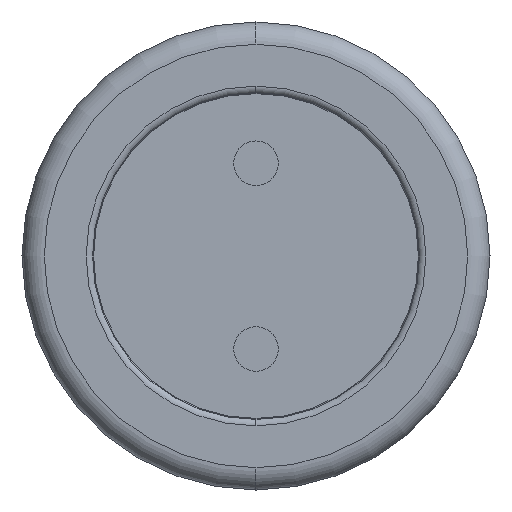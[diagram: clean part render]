
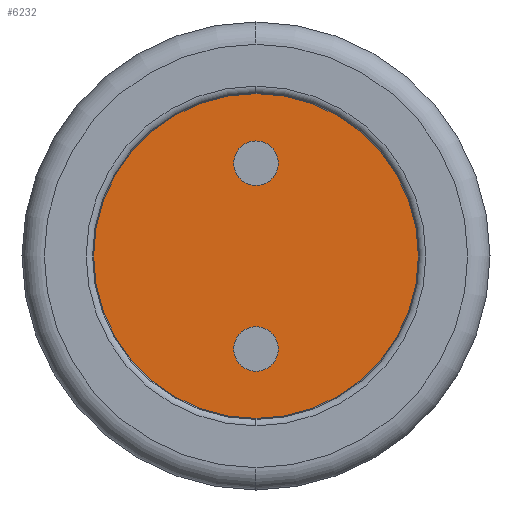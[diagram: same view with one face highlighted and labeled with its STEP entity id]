
A CAD part, left-side view. The second image highlights one B-rep face of the part: STEP entity #6232.
In plain terms, the highlighted planar face has unit normal (-1, 0, 0).
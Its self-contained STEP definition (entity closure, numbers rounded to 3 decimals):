
#40=CARTESIAN_POINT('',(-11.3,0.,0.002));
#41=DIRECTION('',(-1.,0.,0.));
#42=DIRECTION('',(0.,0.,-1.));
#43=AXIS2_PLACEMENT_3D('',#40,#41,#42);
#45=CARTESIAN_POINT('',(-11.3,0.,0.002));
#46=DIRECTION('',(1.,0.,0.));
#47=DIRECTION('',(0.,0.,-1.));
#48=AXIS2_PLACEMENT_3D('',#45,#46,#47);
#50=CARTESIAN_POINT('',(-11.3,0.,-1.25));
#51=DIRECTION('',(-1.,0.,0.));
#52=DIRECTION('',(0.,0.,-1.));
#53=AXIS2_PLACEMENT_3D('',#50,#51,#52);
#55=CARTESIAN_POINT('',(-11.3,0.,-1.25));
#56=DIRECTION('',(-1.,0.,0.));
#57=DIRECTION('',(0.,0.,1.));
#58=AXIS2_PLACEMENT_3D('',#55,#56,#57);
#60=CARTESIAN_POINT('',(-11.3,0.,1.25));
#61=DIRECTION('',(-1.,0.,0.));
#62=DIRECTION('',(0.,0.,-1.));
#63=AXIS2_PLACEMENT_3D('',#60,#61,#62);
#65=CARTESIAN_POINT('',(-11.3,0.,1.25));
#66=DIRECTION('',(-1.,0.,0.));
#67=DIRECTION('',(0.,0.,1.));
#68=AXIS2_PLACEMENT_3D('',#65,#66,#67);
#4685=CARTESIAN_POINT('',(-11.3,0.,-2.198));
#4686=VERTEX_POINT('',#4685);
#4687=CARTESIAN_POINT('',(-11.3,0.,2.202));
#4688=VERTEX_POINT('',#4687);
#4693=CARTESIAN_POINT('',(-11.3,0.,-1.55));
#4694=CARTESIAN_POINT('',(-11.3,0.,-0.95));
#4695=VERTEX_POINT('',#4693);
#4696=VERTEX_POINT('',#4694);
#4697=CARTESIAN_POINT('',(-11.3,0.,0.95));
#4698=CARTESIAN_POINT('',(-11.3,0.,1.55));
#4699=VERTEX_POINT('',#4697);
#4700=VERTEX_POINT('',#4698);
#6211=CARTESIAN_POINT('',(-11.3,0.,0.002));
#6212=DIRECTION('',(1.,0.,0.));
#6213=DIRECTION('',(0.,0.,1.));
#6214=AXIS2_PLACEMENT_3D('',#6211,#6212,#6213);
#6215=PLANE('',#6214);
#6216=ORIENTED_EDGE('',*,*,#6190,.F.);
#6217=ORIENTED_EDGE('',*,*,#6206,.T.);
#6218=EDGE_LOOP('',(#6216,#6217));
#6219=FACE_OUTER_BOUND('',#6218,.F.);
#6221=ORIENTED_EDGE('',*,*,#6220,.T.);
#6223=ORIENTED_EDGE('',*,*,#6222,.T.);
#6224=EDGE_LOOP('',(#6221,#6223));
#6225=FACE_BOUND('',#6224,.F.);
#6227=ORIENTED_EDGE('',*,*,#6226,.T.);
#6229=ORIENTED_EDGE('',*,*,#6228,.T.);
#6230=EDGE_LOOP('',(#6227,#6229));
#6231=FACE_BOUND('',#6230,.F.);
#6232=ADVANCED_FACE('',(#6219,#6225,#6231),#6215,.F.);
#44=CIRCLE('',#43,2.2);
#49=CIRCLE('',#48,2.2);
#54=CIRCLE('',#53,0.3);
#59=CIRCLE('',#58,0.3);
#64=CIRCLE('',#63,0.3);
#69=CIRCLE('',#68,0.3);
#6190=EDGE_CURVE('',#4686,#4688,#44,.T.);
#6206=EDGE_CURVE('',#4686,#4688,#49,.T.);
#6220=EDGE_CURVE('',#4695,#4696,#54,.T.);
#6222=EDGE_CURVE('',#4696,#4695,#59,.T.);
#6226=EDGE_CURVE('',#4699,#4700,#64,.T.);
#6228=EDGE_CURVE('',#4700,#4699,#69,.T.);
